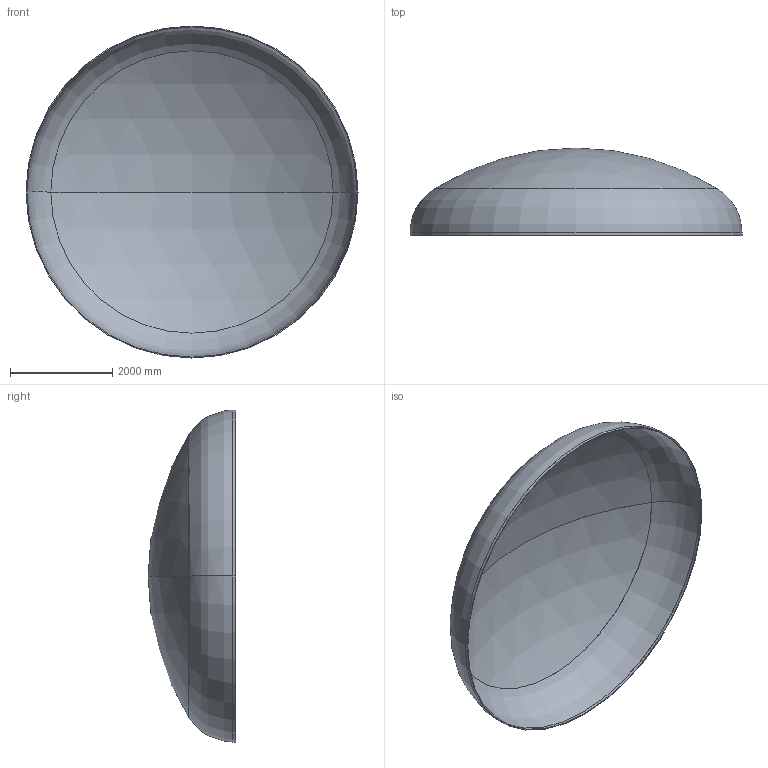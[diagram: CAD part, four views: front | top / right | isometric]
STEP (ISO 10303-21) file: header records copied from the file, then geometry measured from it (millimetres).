
FILE_DESCRIPTION (( 'STEP AP203' ), '1' );
FILE_NAME ('DIN 28013 Korbbogenform_-_Boden DIN 28013 - 6500 x 55 - I - s=17.step', '2016-07-04T10:40:13', ( '' ), ( '' ), 'SwSTEP 2.0', 'SolidWorks 2013', '' );
FILE_SCHEMA (( 'CONFIG_CONTROL_DESIGN' ));
Length unit declared in the file: millimetre
Products named in the file (1): DIN 28013 Korbbogenform_-_Boden DIN 28013 - 6500 x 55 - I - s=17
Bounding box: 6500 x 1714.79 x 6500 mm (x, y, z)
Volume: 797543286.3 mm3; surface area: 94175426.8 mm2
Topology: 1 solids, 1 shells, 13 faces, 24 edges, 14 vertices
Faces by surface type: torus 4, cylinder 4, sphere 4, plane 1
Entity records: 407 total; most frequent: DIRECTION 72, CARTESIAN_POINT 52, ORIENTED_EDGE 48, AXIS2_PLACEMENT_3D 34, EDGE_CURVE 24, CIRCLE 20, VERTEX_POINT 14, EDGE_LOOP 14
